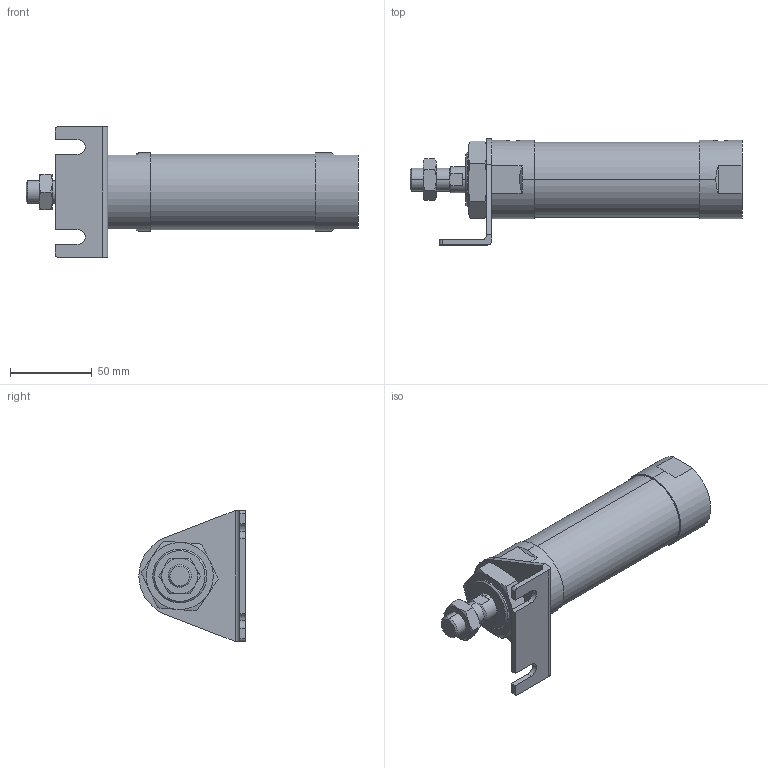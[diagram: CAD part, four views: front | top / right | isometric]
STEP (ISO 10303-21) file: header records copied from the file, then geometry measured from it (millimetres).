
FILE_DESCRIPTION (( 'STEP AP203' ), '1' );
FILE_NAME ('JGND2-40-50-L.STEP', '2016-08-04T03:05:44', ( '' ), ( '' ), 'SwSTEP 2.0', 'SolidWorks 2014', '' );
FILE_SCHEMA (( 'CONFIG_CONTROL_DESIGN' ));
Length unit declared in the file: millimetre
Products named in the file (5): J#2-40-L; J#2-40-50(P); JGND2-40-50-L
Assembly tree (4 placements, depth 2):
  JGND2-40-50-L
    J#2-40-50(P)
    (unnamed)
    (unnamed)
    J#2-40-L
Bounding box: 203 x 65 x 80 mm (x, y, z)
Volume: 302945.3 mm3; surface area: 47155.7 mm2
Topology: 4 solids, 4 shells, 116 faces, 273 edges, 167 vertices
Faces by surface type: plane 47, cylinder 32, torus 24, cone 13
Entity records: 4269 total; most frequent: CARTESIAN_POINT 1150, DIRECTION 548, ORIENTED_EDGE 538, EDGE_CURVE 269, AXIS2_PLACEMENT_3D 219, VERTEX_POINT 167, EDGE_LOOP 128, ADVANCED_FACE 116
